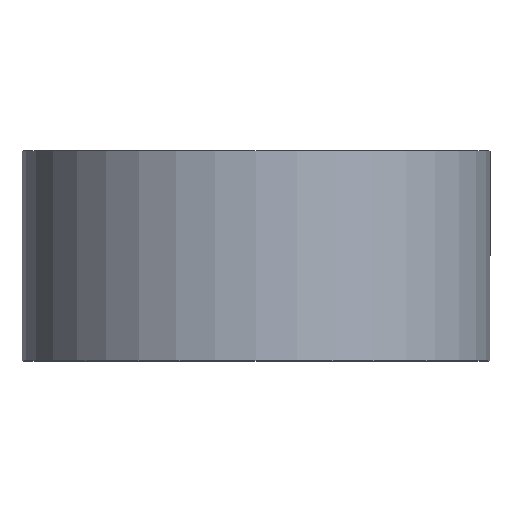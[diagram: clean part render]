
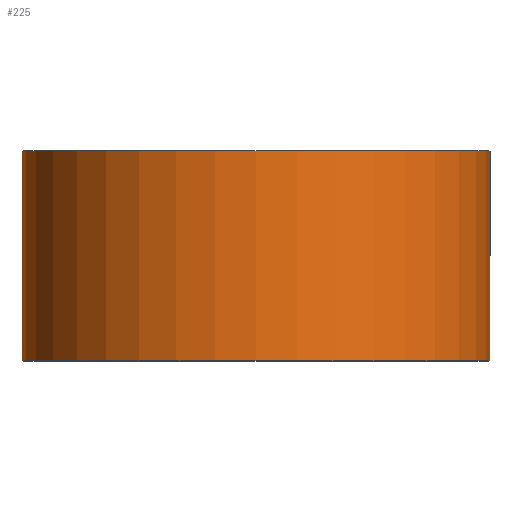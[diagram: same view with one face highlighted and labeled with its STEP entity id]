
A CAD part, top view. The second image highlights one B-rep face of the part: STEP entity #225.
In plain terms, the highlighted cylindrical face has radius 39 mm (diameter 78 mm), a partial arc.
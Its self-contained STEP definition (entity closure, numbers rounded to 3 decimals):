
#10 = EDGE_CURVE ( 'NONE', #29, #237, #255, .T. ) ;
#14 = ORIENTED_EDGE ( 'NONE', *, *, #178, .T. ) ;
#29 = VERTEX_POINT ( 'NONE', #232 ) ;
#36 = CARTESIAN_POINT ( 'NONE',  ( 39., 0., 0. ) ) ;
#49 = CARTESIAN_POINT ( 'NONE',  ( -39., 0., 0. ) ) ;
#59 = CARTESIAN_POINT ( 'NONE',  ( 39., 0., 0. ) ) ;
#60 = DIRECTION ( 'NONE',  ( 0., 1., 0. ) ) ;
#62 = ORIENTED_EDGE ( 'NONE', *, *, #88, .T. ) ;
#63 = DIRECTION ( 'NONE',  ( -1., 0., 0. ) ) ;
#64 = DIRECTION ( 'NONE',  ( 0., 1., 0. ) ) ;
#87 = ORIENTED_EDGE ( 'NONE', *, *, #10, .F. ) ;
#88 = EDGE_CURVE ( 'NONE', #29, #153, #117, .T. ) ;
#93 = EDGE_LOOP ( 'NONE', ( #62, #14, #293, #87 ) ) ;
#107 = DIRECTION ( 'NONE',  ( 0., 1., 0. ) ) ;
#108 = CARTESIAN_POINT ( 'NONE',  ( 0., 35., 0. ) ) ;
#114 = AXIS2_PLACEMENT_3D ( 'NONE', #108, #197, #63 ) ;
#117 = CIRCLE ( 'NONE', #244, 39. ) ;
#119 = EDGE_CURVE ( 'NONE', #237, #229, #193, .T. ) ;
#129 = DIRECTION ( 'NONE',  ( -1., 0., 0. ) ) ;
#132 = CARTESIAN_POINT ( 'NONE',  ( 39., 35., 0. ) ) ;
#143 = AXIS2_PLACEMENT_3D ( 'NONE', #287, #60, #152 ) ;
#145 = VECTOR ( 'NONE', #207, 1000. ) ;
#149 = CYLINDRICAL_SURFACE ( 'NONE', #143, 39. ) ;
#152 = DIRECTION ( 'NONE',  ( -1., 0., 0. ) ) ;
#153 = VERTEX_POINT ( 'NONE', #59 ) ;
#178 = EDGE_CURVE ( 'NONE', #153, #229, #298, .T. ) ;
#193 = CIRCLE ( 'NONE', #114, 39. ) ;
#197 = DIRECTION ( 'NONE',  ( 0., 1., 0. ) ) ;
#207 = DIRECTION ( 'NONE',  ( 0., 1., 0. ) ) ;
#219 = CARTESIAN_POINT ( 'NONE',  ( -39., 35., 0. ) ) ;
#225 = ADVANCED_FACE ( 'NONE', ( #294 ), #149, .T. ) ;
#229 = VERTEX_POINT ( 'NONE', #132 ) ;
#232 = CARTESIAN_POINT ( 'NONE',  ( -39., 0., 0. ) ) ;
#237 = VERTEX_POINT ( 'NONE', #219 ) ;
#244 = AXIS2_PLACEMENT_3D ( 'NONE', #246, #64, #129 ) ;
#246 = CARTESIAN_POINT ( 'NONE',  ( 0., 0., 0. ) ) ;
#255 = LINE ( 'NONE', #49, #145 ) ;
#268 = VECTOR ( 'NONE', #107, 1000. ) ;
#287 = CARTESIAN_POINT ( 'NONE',  ( 0., 0., 0. ) ) ;
#293 = ORIENTED_EDGE ( 'NONE', *, *, #119, .F. ) ;
#294 = FACE_OUTER_BOUND ( 'NONE', #93, .T. ) ;
#298 = LINE ( 'NONE', #36, #268 ) ;
